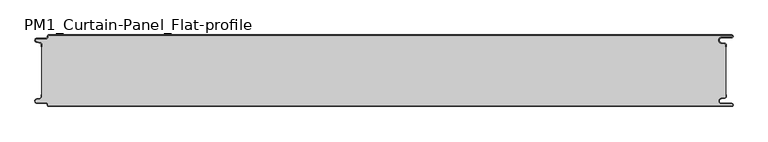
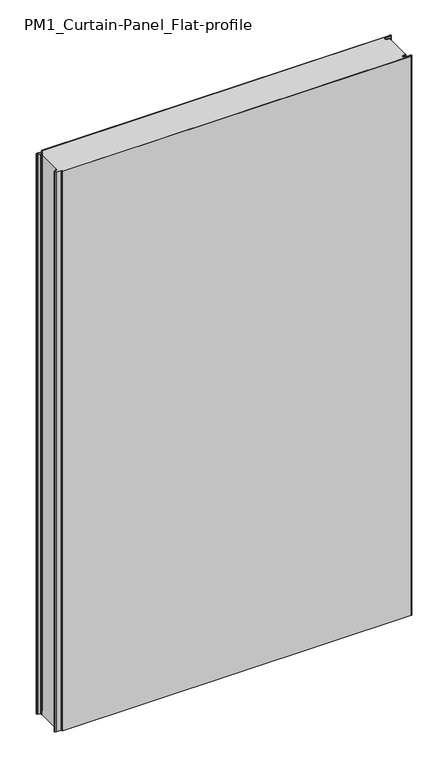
"""IFC4 building model written with IfcOpenShell, lengths in millimetres: plate geometry, PM1_Curtain-Panel_Flat-profile : ACH_PM1_Acoustic-Sectioning-Panel_120M."""

from ifc_helpers import new_model, si_unit, point, frame, frame_2d, origin, origin_with_axes, place, context, project, spatial, polyline, circle_curve, trimmed, segment, composite_curve, outline, extrude, source, transform, mapped, element, save
from ifc_brep_helpers import plane_surface, cylinder_surface, revolved_surface, advanced_brep


def pm1_curtain_panel_flat_profile_ca693aed(model_context):
    return source(origin(), model_context, "Body", "SolidModel", [
        advanced_brep(
        [(583.1, 0.0, 1945.7507136), (-562.4, 0.0, 1945.7507136), (-564.4, -2.0, 1945.7507136), (-564.4, -3.4, 1945.7507136), (-566.4, -5.4, 1945.7507136), (-581.9, -5.4, 1945.7507136), (-582.7098239, -12.5077322, 1945.7507136), (-576.5500979, -13.929817, 1945.7507136), (-575.0, -15.878557, 1945.7507136), (-575.0, -20.0, 1945.7507136), (-574.2, -20.0, 1945.7507136), (-574.2, -15.878557, 1945.7507136), (-576.370137, -13.1503208, 1945.7507136), (-582.529863, -11.728236, 1945.7507136), (-581.9, -6.2, 1945.7507136), (-566.4, -6.2, 1945.7507136), (-563.6, -3.4, 1945.7507136), (-563.6, -2.0, 1945.7507136), (-562.4, -0.8, 1945.7507136), (583.1, -0.8, 1945.7507136), (583.1, -4.2, 1945.7507136), (566.1, -4.2, 1945.7507136), (565.266489, -13.7270773, 1945.7507136), (571.7125666, -14.8636942, 1945.7507136), (573.2, -16.636348, 1945.7507136), (573.2, -20.0, 1945.7507136), (574.0, -20.0, 1945.7507136), (574.0, -16.636348, 1945.7507136), (571.8514851, -14.0758478, 1945.7507136), (565.4054075, -12.9392309, 1945.7507136), (566.1, -5.0, 1945.7507136), (583.1, -5.0, 1945.7507136), (585.6, -2.5, 1945.7507136), (-562.4, 0.0, 0.0), (583.1, 0.0, 0.0), (585.6, -2.5, 0.0), (583.1, -5.0, 0.0), (566.1, -5.0, 0.0), (565.4054075, -12.939231, 0.0), (571.8514851, -14.075848, 0.0), (574.0, -16.636348, 0.0), (574.0, -20.0, 0.0), (573.2, -20.0, 0.0), (573.2, -16.636348, 0.0), (571.7125666, -14.863694, 0.0), (565.266489, -13.7270771, 0.0), (566.1, -4.2, 0.0), (583.1, -4.2, 0.0), (583.1, -0.8, 0.0), (-562.4, -0.8, 0.0), (-563.6, -2.0, 0.0), (-563.6, -3.4, 0.0), (-566.4, -6.2, 0.0), (-581.9, -6.2, 0.0), (-582.529863, -11.7282362, 0.0), (-576.370137, -13.150321, 0.0), (-574.2, -15.878557, 0.0), (-574.2, -20.0, 0.0), (-575.0, -20.0, 0.0), (-575.0, -15.878557, 0.0), (-576.5500978, -13.9298169, 0.0), (-582.7098239, -12.507732, 0.0), (-581.9, -5.4, 0.0), (-566.4, -5.4, 0.0), (-564.4, -3.4, 0.0), (-564.4, -2.0, 0.0)],
        [
            (0, 1),
            (1, 2, circle_curve(frame((-562.4, -2.0, 1945.7507136), z_axis=(0.0, 0.0, 1.0), x_axis=(1.0, 0.0, 0.0)), 2.0)),
            (2, 3),
            (3, 4, circle_curve(frame((-566.4, -3.4, 1945.7507136), z_axis=(0.0, 0.0, -1.0), x_axis=(1.0, 0.0, 0.0)), 2.0)),
            (4, 5),
            (5, 6, circle_curve(frame((-581.9, -9.0, 1945.7507136), z_axis=(0.0, 0.0, 1.0), x_axis=(1.0, 0.0, 0.0)), 3.6)),
            (6, 7),
            (7, 8, circle_curve(frame((-577.0, -15.878557, 1945.7507136), z_axis=(0.0, 0.0, -1.0), x_axis=(1.0, 0.0, 0.0)), 2.0)),
            (8, 9),
            (9, 10),
            (10, 11),
            (11, 12, circle_curve(frame((-577.0, -15.878557, 1945.7507136), z_axis=(0.0, 0.0, 1.0), x_axis=(1.0, 0.0, 0.0)), 2.8)),
            (12, 13),
            (13, 14, circle_curve(frame((-581.9, -9.0, 1945.7507136), z_axis=(0.0, 0.0, -1.0), x_axis=(1.0, 0.0, 0.0)), 2.8)),
            (14, 15),
            (15, 16, circle_curve(frame((-566.4, -3.4, 1945.7507136), z_axis=(0.0, 0.0, 1.0), x_axis=(1.0, 0.0, 0.0)), 2.8)),
            (16, 17),
            (17, 18, circle_curve(frame((-562.4, -2.0, 1945.7507136), z_axis=(0.0, 0.0, -1.0), x_axis=(1.0, 0.0, 0.0)), 1.2)),
            (18, 19),
            (19, 20, circle_curve(frame((583.1, -2.5, 1945.7507136), z_axis=(0.0, 0.0, -1.0), x_axis=(1.0, 0.0, 0.0)), 1.7)),
            (20, 21),
            (21, 22, circle_curve(frame((566.1, -9.0, 1945.7507136), z_axis=(0.0, 0.0, 1.0), x_axis=(1.0, 0.0, 0.0)), 4.8)),
            (22, 23),
            (23, 24, circle_curve(frame((571.4, -16.636348, 1945.7507136), z_axis=(0.0, 0.0, -1.0), x_axis=(1.0, 0.0, 0.0)), 1.8)),
            (24, 25),
            (25, 26),
            (26, 27),
            (27, 28, circle_curve(frame((571.4, -16.636348, 1945.7507136), z_axis=(0.0, 0.0, 1.0), x_axis=(1.0, 0.0, 0.0)), 2.6)),
            (28, 29),
            (29, 30, circle_curve(frame((566.1, -9.0, 1945.7507136), z_axis=(0.0, 0.0, -1.0), x_axis=(1.0, 0.0, 0.0)), 4.0)),
            (30, 31),
            (31, 32, circle_curve(frame((583.1, -2.5, 1945.7507136), z_axis=(0.0, 0.0, 1.0), x_axis=(1.0, 0.0, 0.0)), 2.5)),
            (32, 0, circle_curve(frame((583.1, -2.5, 1945.7507136), z_axis=(0.0, 0.0, 1.0), x_axis=(1.0, 0.0, 0.0)), 2.5)),
            (33, 34),
            (34, 35, circle_curve(frame((583.1, -2.5, 0.0), z_axis=(0.0, 0.0, -1.0), x_axis=(1.0, 0.0, 0.0)), 2.5)),
            (35, 36, circle_curve(frame((583.1, -2.5, 0.0), z_axis=(0.0, 0.0, -1.0), x_axis=(1.0, 0.0, 0.0)), 2.5)),
            (36, 37),
            (37, 38, circle_curve(frame((566.1, -9.0, 0.0), z_axis=(0.0, 0.0, 1.0), x_axis=(1.0, 0.0, 0.0)), 4.0)),
            (38, 39),
            (39, 40, circle_curve(frame((571.4, -16.636348, 0.0), z_axis=(0.0, 0.0, -1.0), x_axis=(1.0, 0.0, 0.0)), 2.6)),
            (40, 41),
            (41, 42),
            (42, 43),
            (43, 44, circle_curve(frame((571.4, -16.636348, 0.0), z_axis=(0.0, 0.0, 1.0), x_axis=(1.0, 0.0, 0.0)), 1.8)),
            (44, 45),
            (45, 46, circle_curve(frame((566.1, -9.0, 0.0), z_axis=(0.0, 0.0, -1.0), x_axis=(1.0, 0.0, 0.0)), 4.8)),
            (46, 47),
            (47, 48, circle_curve(frame((583.1, -2.5, 0.0), z_axis=(0.0, 0.0, 1.0), x_axis=(1.0, 0.0, 0.0)), 1.7)),
            (48, 49),
            (49, 50, circle_curve(frame((-562.4, -2.0, 0.0), z_axis=(0.0, 0.0, 1.0), x_axis=(1.0, 0.0, 0.0)), 1.2)),
            (50, 51),
            (51, 52, circle_curve(frame((-566.4, -3.4, 0.0), z_axis=(0.0, 0.0, -1.0), x_axis=(1.0, 0.0, 0.0)), 2.8)),
            (52, 53),
            (53, 54, circle_curve(frame((-581.9, -9.0, 0.0), z_axis=(0.0, 0.0, 1.0), x_axis=(1.0, 0.0, 0.0)), 2.8)),
            (54, 55),
            (55, 56, circle_curve(frame((-577.0, -15.878557, 0.0), z_axis=(0.0, 0.0, -1.0), x_axis=(1.0, 0.0, 0.0)), 2.8)),
            (56, 57),
            (57, 58),
            (58, 59),
            (59, 60, circle_curve(frame((-577.0, -15.878557, 0.0), z_axis=(0.0, 0.0, 1.0), x_axis=(1.0, 0.0, 0.0)), 2.0)),
            (60, 61),
            (61, 62, circle_curve(frame((-581.9, -9.0, 0.0), z_axis=(0.0, 0.0, -1.0), x_axis=(1.0, 0.0, 0.0)), 3.6)),
            (62, 63),
            (63, 64, circle_curve(frame((-566.4, -3.4, 0.0), z_axis=(0.0, 0.0, 1.0), x_axis=(1.0, 0.0, 0.0)), 2.0)),
            (64, 65),
            (65, 33, circle_curve(frame((-562.4, -2.0, 0.0), z_axis=(0.0, 0.0, -1.0), x_axis=(1.0, 0.0, 0.0)), 2.0)),
            (1, 33),
            (65, 2),
            (64, 3),
            (63, 4),
            (62, 5),
            (61, 6),
            (60, 7),
            (59, 8),
            (58, 9),
            (57, 10),
            (56, 11),
            (55, 12),
            (54, 13),
            (53, 14),
            (52, 15),
            (51, 16),
            (50, 17),
            (49, 18),
            (48, 19),
            (47, 20),
            (46, 21),
            (45, 22),
            (44, 23),
            (43, 24),
            (42, 25),
            (41, 26),
            (40, 27),
            (39, 28),
            (38, 29),
            (37, 30),
            (36, 31),
            (34, 0),
        ],
        [
            plane_surface(frame((-575.0, 0.0, 1945.7507136), z_axis=(0.0, 0.0, 1.0), x_axis=(0.0, 1.0, 0.0))),
            plane_surface(frame((-575.0, 0.0, 0.0), z_axis=(0.0, 0.0, -1.0), x_axis=(0.0, 1.0, 0.0))),
            cylinder_surface(frame((-562.4, -2.0, 1945.7507136), z_axis=(0.0, 0.0, 1.0), x_axis=(1.0, 0.0, 0.0)), 2.0),
            plane_surface(frame((-564.4, -2.0, 1945.7507136), z_axis=(-1.0, 0.0, 0.0), x_axis=(0.0, 0.0, -1.0))),
            revolved_surface(polyline([(-564.4, -3.4, 0.0), (-564.4, -3.4, 1945.7507136)]), (-566.4, -3.4, 1945.7507136), (0.0, 0.0, -1.0)),
            plane_surface(frame((-566.4, -5.4, 1945.7507136), z_axis=(0.0, 1.0, 0.0), x_axis=(0.0, 0.0, -1.0))),
            cylinder_surface(frame((-581.9, -9.0, 1945.7507136), z_axis=(0.0, 0.0, 1.0), x_axis=(1.0, 0.0, 0.0)), 3.6),
            plane_surface(frame((-582.7098239, -12.507732, 1945.7507136), z_axis=(-0.2249510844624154, -0.9743700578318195, 0.0), x_axis=(0.0, 0.0, -1.0))),
            revolved_surface(polyline([(-575.0, -15.878557, 0.0), (-575.0, -15.878557, 1945.7507136)]), (-577.0, -15.878557, 1945.7507136), (0.0, 0.0, -1.0)),
            plane_surface(frame((-575.0, -15.878557, 1945.7507136), z_axis=(-1.0, 0.0, 0.0), x_axis=(0.0, 0.0, -1.0))),
            plane_surface(frame((-575.0, -20.0, 1945.7507136), z_axis=(0.0, -1.0, 0.0), x_axis=(0.0, 0.0, -1.0))),
            plane_surface(frame((-574.2, -20.0, 1945.7507136), z_axis=(1.0, 0.0, 0.0), x_axis=(0.0, 0.0, -1.0))),
            cylinder_surface(frame((-577.0, -15.878557, 1945.7507136), z_axis=(0.0, 0.0, 1.0), x_axis=(1.0, 0.0, 0.0)), 2.8),
            plane_surface(frame((-576.370137, -13.150321, 1945.7507136), z_axis=(0.22495108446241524, 0.9743700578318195, 0.0), x_axis=(0.0, 0.0, -1.0))),
            revolved_surface(polyline([(-579.1, -9.0, 0.0), (-579.1, -9.0, 1945.7507136)]), (-581.9, -9.0, 1945.7507136), (0.0, 0.0, -1.0)),
            plane_surface(frame((-581.9, -6.2, 1945.7507136), z_axis=(0.0, -1.0, 0.0), x_axis=(0.0, 0.0, -1.0))),
            cylinder_surface(frame((-566.4, -3.4, 1945.7507136), z_axis=(0.0, 0.0, 1.0), x_axis=(1.0, 0.0, 0.0)), 2.8),
            plane_surface(frame((-563.6, -3.4, 1945.7507136), z_axis=(1.0, 0.0, 0.0), x_axis=(0.0, 0.0, -1.0))),
            revolved_surface(polyline([(-561.1999999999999, -2.0, 0.0), (-561.1999999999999, -2.0, 1945.7507136)]), (-562.4, -2.0, 1945.7507136), (0.0, 0.0, -1.0)),
            plane_surface(frame((560.890897, -0.8, 1945.7507136), z_axis=(0.0, -1.0, 0.0), x_axis=(0.0, 0.0, -1.0))),
            revolved_surface(polyline([(584.8000000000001, -2.5, 0.0), (584.8000000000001, -2.5, 1945.7507136)]), (583.1, -2.5, 1945.7507136), (0.0, 0.0, -1.0)),
            plane_surface(frame((583.1, -4.2, 1945.7507136), z_axis=(0.0, 1.0, 0.0), x_axis=(0.0, 0.0, -1.0))),
            cylinder_surface(frame((566.1, -9.0, 1945.7507136), z_axis=(0.0, 0.0, 1.0), x_axis=(1.0, 0.0, 0.0)), 4.8),
            plane_surface(frame((565.266489, -13.7270771, 1945.7507136), z_axis=(-0.1736481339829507, -0.9848077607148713, 0.0), x_axis=(0.0, 0.0, -1.0))),
            revolved_surface(polyline([(573.1999999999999, -16.636348, 0.0), (573.1999999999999, -16.636348, 1945.7507136)]), (571.4, -16.636348, 1945.7507136), (0.0, 0.0, -1.0)),
            plane_surface(frame((573.2, -16.636348, 1945.7507136), z_axis=(-1.0, 0.0, 0.0), x_axis=(0.0, 0.0, -1.0))),
            plane_surface(frame((573.2, -20.0, 1945.7507136), z_axis=(0.0, -1.0, 0.0), x_axis=(0.0, 0.0, -1.0))),
            plane_surface(frame((574.0, -20.0, 1945.7507136), z_axis=(1.0, 0.0, 0.0), x_axis=(0.0, 0.0, -1.0))),
            cylinder_surface(frame((571.4, -16.636348, 1945.7507136), z_axis=(0.0, 0.0, 1.0), x_axis=(1.0, 0.0, 0.0)), 2.6),
            plane_surface(frame((571.8514851, -14.075848, 1945.7507136), z_axis=(0.17364813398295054, 0.9848077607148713, 0.0), x_axis=(0.0, 0.0, -1.0))),
            revolved_surface(polyline([(570.1, -9.0, 0.0), (570.1, -9.0, 1945.7507136)]), (566.1, -9.0, 1945.7507136), (0.0, 0.0, -1.0)),
            plane_surface(frame((566.1, -5.0, 1945.7507136), z_axis=(0.0, -1.0, 0.0), x_axis=(0.0, 0.0, -1.0))),
            cylinder_surface(frame((583.1, -2.5, 1945.7507136), z_axis=(0.0, 0.0, 1.0), x_axis=(1.0, 0.0, 0.0)), 2.5),
            plane_surface(frame((510.5961529, 0.0, 1945.7507136), z_axis=(0.0, 1.0, 0.0), x_axis=(0.0, 0.0, -1.0))),
        ],
        [
            (0, [[1, 2, 3, 4, 5, 6, 7, 8, 9, 10, 11, 12, 13, 14, 15, 16, 17, 18, 19, 20, 21, 22, 23, 24, 25, 26, 27, 28, 29, 30, 31, 32, 33]]),
            (1, [[34, 35, 36, 37, 38, 39, 40, 41, 42, 43, 44, 45, 46, 47, 48, 49, 50, 51, 52, 53, 54, 55, 56, 57, 58, 59, 60, 61, 62, 63, 64, 65, 66]]),
            (2, [[-2, 67, -66, 68]]),
            (3, [[-3, -68, -65, 69]]),
            (4, [[-4, -69, -64, 70]]),
            (5, [[-5, -70, -63, 71]]),
            (6, [[-6, -71, -62, 72]]),
            (7, [[-7, -72, -61, 73]]),
            (8, [[-8, -73, -60, 74]]),
            (9, [[-9, -74, -59, 75]]),
            (10, [[-10, -75, -58, 76]]),
            (11, [[-11, -76, -57, 77]]),
            (12, [[-12, -77, -56, 78]]),
            (13, [[-13, -78, -55, 79]]),
            (14, [[-14, -79, -54, 80]]),
            (15, [[-15, -80, -53, 81]]),
            (16, [[-16, -81, -52, 82]]),
            (17, [[-17, -82, -51, 83]]),
            (18, [[-18, -83, -50, 84]]),
            (19, [[-19, -84, -49, 85]]),
            (20, [[-20, -85, -48, 86]]),
            (21, [[-21, -86, -47, 87]]),
            (22, [[-22, -87, -46, 88]]),
            (23, [[-23, -88, -45, 89]]),
            (24, [[-24, -89, -44, 90]]),
            (25, [[-25, -90, -43, 91]]),
            (26, [[-26, -91, -42, 92]]),
            (27, [[-27, -92, -41, 93]]),
            (28, [[-28, -93, -40, 94]]),
            (29, [[-29, -94, -39, 95]]),
            (30, [[-30, -95, -38, 96]]),
            (31, [[-31, -96, -37, 97]]),
            (32, [[-97, -36, -35, 98, -33, -32]]),
            (33, [[-1, -98, -34, -67]]),
        ],
    ),
        extrude(outline(composite_curve([segment(polyline([(-574.2, -104.1214426), (-574.2, -15.8785573)]), True, "CONTINUOUS"), segment(trimmed(circle_curve(frame_2d((-577.0, -15.8785573)), 2.8), [point((-574.2, -15.8785573))], [point((-576.370137, -13.1503212))], True, "CARTESIAN"), True, "CONTINUOUS"), segment(polyline([(-576.370137, -13.1503212), (-582.5298631, -11.7282362)]), True, "CONTINUOUS"), segment(trimmed(circle_curve(frame_2d((-581.9, -9.0)), 2.8), [point((-582.5298631, -11.7282362))], [point((-581.9, -6.2))], False, "CARTESIAN"), True, "CONTINUOUS"), segment(polyline([(-581.9, -6.2), (-566.4000001, -6.2)]), True, "CONTINUOUS"), segment(trimmed(circle_curve(frame_2d((-566.4000001, -3.4)), 2.8), [point((-566.4000001, -6.2))], [point((-563.6000001, -3.4))], True, "CARTESIAN"), True, "CONTINUOUS"), segment(polyline([(-563.6000001, -3.4), (-563.6000001, -2.0)]), True, "CONTINUOUS"), segment(trimmed(circle_curve(frame_2d((-562.4000001, -2.0)), 1.2), [point((-563.6000001, -2.0))], [point((-562.4000001, -0.8))], False, "CARTESIAN"), True, "CONTINUOUS"), segment(polyline([(-562.4000001, -0.8), (583.1, -0.8)]), True, "CONTINUOUS"), segment(trimmed(circle_curve(frame_2d((583.1, -2.5)), 1.7), [point((583.1, -0.8))], [point((583.1, -4.2))], False, "CARTESIAN"), True, "CONTINUOUS"), segment(polyline([(583.1, -4.2), (566.1, -4.2)]), True, "CONTINUOUS"), segment(trimmed(circle_curve(frame_2d((566.1, -9.0)), 4.8), [point((566.1, -4.2))], [point((565.2664883, -13.7270771))], True, "CARTESIAN"), True, "CONTINUOUS"), segment(polyline([(565.2664883, -13.7270771), (571.7125668, -14.8636953)]), True, "CONTINUOUS"), segment(trimmed(circle_curve(frame_2d((571.4, -16.6363492)), 1.8), [point((571.7125668, -14.8636953))], [point((573.2, -16.6363492))], False, "CARTESIAN"), True, "CONTINUOUS"), segment(polyline([(573.2, -16.6363492), (573.2, -103.3636508)]), True, "CONTINUOUS"), segment(trimmed(circle_curve(frame_2d((571.4, -103.3636508)), 1.8), [point((573.2, -103.3636508))], [point((571.7125668, -105.1363047))], False, "CARTESIAN"), True, "CONTINUOUS"), segment(polyline([(571.7125668, -105.1363047), (565.2664883, -106.2729229)]), True, "CONTINUOUS"), segment(trimmed(circle_curve(frame_2d((566.1, -111.0)), 4.8), [point((565.2664883, -106.2729229))], [point((566.1, -115.8))], True, "CARTESIAN"), True, "CONTINUOUS"), segment(polyline([(566.1, -115.8), (583.1, -115.8)]), True, "CONTINUOUS"), segment(trimmed(circle_curve(frame_2d((583.1, -117.5)), 1.7), [point((583.1, -115.8))], [point((583.1, -119.2))], False, "CARTESIAN"), True, "CONTINUOUS"), segment(polyline([(583.1, -119.2), (-562.4000001, -119.2)]), True, "CONTINUOUS"), segment(trimmed(circle_curve(frame_2d((-562.4000001, -118.0)), 1.2), [point((-562.4000001, -119.2))], [point((-563.6000001, -118.0))], False, "CARTESIAN"), True, "CONTINUOUS"), segment(polyline([(-563.6000001, -118.0), (-563.6000001, -116.6)]), True, "CONTINUOUS"), segment(trimmed(circle_curve(frame_2d((-566.4000001, -116.6)), 2.8), [point((-563.6000001, -116.6))], [point((-566.4000001, -113.8))], True, "CARTESIAN"), True, "CONTINUOUS"), segment(polyline([(-566.4000001, -113.8), (-581.9, -113.8)]), True, "CONTINUOUS"), segment(trimmed(circle_curve(frame_2d((-581.9, -111.0)), 2.8), [point((-581.9, -113.8))], [point((-582.5298631, -108.2717638))], False, "CARTESIAN"), True, "CONTINUOUS"), segment(polyline([(-582.5298631, -108.2717638), (-576.370137, -106.8496788)]), True, "CONTINUOUS"), segment(trimmed(circle_curve(frame_2d((-577.0, -104.1214426)), 2.8), [point((-576.370137, -106.8496788))], [point((-574.2, -104.1214426))], True, "CARTESIAN"), True, "CONTINUOUS")], self_intersect=False)), origin_with_axes(), (0.0, 0.0, 1.0), 1945.7507136),
        advanced_brep(
        [(-562.4, -120.0, 1945.7507136), (583.1, -120.0, 1945.7507136), (585.6, -117.5, 1945.7507136), (583.1, -115.0, 1945.7507136), (566.1, -115.0, 1945.7507136), (565.4054075, -107.060769, 1945.7507136), (571.8514851, -105.924152, 1945.7507136), (574.0, -103.363652, 1945.7507136), (574.0, -100.0, 1945.7507136), (573.2, -100.0, 1945.7507136), (573.2, -103.363652, 1945.7507136), (571.7125666, -105.136306, 1945.7507136), (565.266489, -106.2729229, 1945.7507136), (566.1, -115.8, 1945.7507136), (583.1, -115.8, 1945.7507136), (583.1, -119.2, 1945.7507136), (-562.4, -119.2, 1945.7507136), (-563.6, -118.0, 1945.7507136), (-563.6, -116.6, 1945.7507136), (-566.4, -113.8, 1945.7507136), (-581.9, -113.8, 1945.7507136), (-582.529863, -108.2717638, 1945.7507136), (-576.370137, -106.849679, 1945.7507136), (-574.2, -104.121443, 1945.7507136), (-574.2, -100.0, 1945.7507136), (-575.0, -100.0, 1945.7507136), (-575.0, -104.121443, 1945.7507136), (-576.5500978, -106.0701831, 1945.7507136), (-582.7098239, -107.492268, 1945.7507136), (-581.9, -114.6, 1945.7507136), (-566.4, -114.6, 1945.7507136), (-564.4, -116.6, 1945.7507136), (-564.4, -118.0, 1945.7507136), (583.1, -120.0, 0.0), (-562.4, -120.0, 0.0), (-564.4, -118.0, 0.0), (-564.4, -116.6, 0.0), (-566.4, -114.6, 0.0), (-581.9, -114.6, 0.0), (-582.7098239, -107.4922678, 0.0), (-576.5500979, -106.070183, 0.0), (-575.0, -104.121443, 0.0), (-575.0, -100.0, 0.0), (-574.2, -100.0, 0.0), (-574.2, -104.121443, 0.0), (-576.370137, -106.8496792, 0.0), (-582.529863, -108.271764, 0.0), (-581.9, -113.8, 0.0), (-566.4, -113.8, 0.0), (-563.6, -116.6, 0.0), (-563.6, -118.0, 0.0), (-562.4, -119.2, 0.0), (583.1, -119.2, 0.0), (583.1, -115.8, 0.0), (566.1, -115.8, 0.0), (565.266489, -106.2729227, 0.0), (571.7125666, -105.1363058, 0.0), (573.2, -103.363652, 0.0), (573.2, -100.0, 0.0), (574.0, -100.0, 0.0), (574.0, -103.363652, 0.0), (571.8514851, -105.9241522, 0.0), (565.4054075, -107.0607691, 0.0), (566.1, -115.0, 0.0), (583.1, -115.0, 0.0), (585.6, -117.5, 0.0)],
        [
            (0, 1),
            (1, 2, circle_curve(frame((583.1, -117.5, 1945.7507136), z_axis=(0.0, 0.0, 1.0), x_axis=(1.0, 0.0, 0.0)), 2.5)),
            (2, 3, circle_curve(frame((583.1, -117.5, 1945.7507136), z_axis=(0.0, 0.0, 1.0), x_axis=(1.0, 0.0, 0.0)), 2.5)),
            (3, 4),
            (4, 5, circle_curve(frame((566.1, -111.0, 1945.7507136), z_axis=(0.0, 0.0, -1.0), x_axis=(1.0, 0.0, 0.0)), 4.0)),
            (5, 6),
            (6, 7, circle_curve(frame((571.4, -103.363652, 1945.7507136), z_axis=(0.0, 0.0, 1.0), x_axis=(1.0, 0.0, 0.0)), 2.6)),
            (7, 8),
            (8, 9),
            (9, 10),
            (10, 11, circle_curve(frame((571.4, -103.363652, 1945.7507136), z_axis=(0.0, 0.0, -1.0), x_axis=(1.0, 0.0, 0.0)), 1.8)),
            (11, 12),
            (12, 13, circle_curve(frame((566.1, -111.0, 1945.7507136), z_axis=(0.0, 0.0, 1.0), x_axis=(1.0, 0.0, 0.0)), 4.8)),
            (13, 14),
            (14, 15, circle_curve(frame((583.1, -117.5, 1945.7507136), z_axis=(0.0, 0.0, -1.0), x_axis=(1.0, 0.0, 0.0)), 1.7)),
            (15, 16),
            (16, 17, circle_curve(frame((-562.4, -118.0, 1945.7507136), z_axis=(0.0, 0.0, -1.0), x_axis=(1.0, 0.0, 0.0)), 1.2)),
            (17, 18),
            (18, 19, circle_curve(frame((-566.4, -116.6, 1945.7507136), z_axis=(0.0, 0.0, 1.0), x_axis=(1.0, 0.0, 0.0)), 2.8)),
            (19, 20),
            (20, 21, circle_curve(frame((-581.9, -111.0, 1945.7507136), z_axis=(0.0, 0.0, -1.0), x_axis=(1.0, 0.0, 0.0)), 2.8)),
            (21, 22),
            (22, 23, circle_curve(frame((-577.0, -104.121443, 1945.7507136), z_axis=(0.0, 0.0, 1.0), x_axis=(1.0, 0.0, 0.0)), 2.8)),
            (23, 24),
            (24, 25),
            (25, 26),
            (26, 27, circle_curve(frame((-577.0, -104.121443, 1945.7507136), z_axis=(0.0, 0.0, -1.0), x_axis=(1.0, 0.0, 0.0)), 2.0)),
            (27, 28),
            (28, 29, circle_curve(frame((-581.9, -111.0, 1945.7507136), z_axis=(0.0, 0.0, 1.0), x_axis=(1.0, 0.0, 0.0)), 3.6)),
            (29, 30),
            (30, 31, circle_curve(frame((-566.4, -116.6, 1945.7507136), z_axis=(0.0, 0.0, -1.0), x_axis=(1.0, 0.0, 0.0)), 2.0)),
            (31, 32),
            (32, 0, circle_curve(frame((-562.4, -118.0, 1945.7507136), z_axis=(0.0, 0.0, 1.0), x_axis=(1.0, 0.0, 0.0)), 2.0)),
            (33, 34),
            (34, 35, circle_curve(frame((-562.4, -118.0, 0.0), z_axis=(0.0, 0.0, -1.0), x_axis=(1.0, 0.0, 0.0)), 2.0)),
            (35, 36),
            (36, 37, circle_curve(frame((-566.4, -116.6, 0.0), z_axis=(0.0, 0.0, 1.0), x_axis=(1.0, 0.0, 0.0)), 2.0)),
            (37, 38),
            (38, 39, circle_curve(frame((-581.9, -111.0, 0.0), z_axis=(0.0, 0.0, -1.0), x_axis=(1.0, 0.0, 0.0)), 3.6)),
            (39, 40),
            (40, 41, circle_curve(frame((-577.0, -104.121443, 0.0), z_axis=(0.0, 0.0, 1.0), x_axis=(1.0, 0.0, 0.0)), 2.0)),
            (41, 42),
            (42, 43),
            (43, 44),
            (44, 45, circle_curve(frame((-577.0, -104.121443, 0.0), z_axis=(0.0, 0.0, -1.0), x_axis=(1.0, 0.0, 0.0)), 2.8)),
            (45, 46),
            (46, 47, circle_curve(frame((-581.9, -111.0, 0.0), z_axis=(0.0, 0.0, 1.0), x_axis=(1.0, 0.0, 0.0)), 2.8)),
            (47, 48),
            (48, 49, circle_curve(frame((-566.4, -116.6, 0.0), z_axis=(0.0, 0.0, -1.0), x_axis=(1.0, 0.0, 0.0)), 2.8)),
            (49, 50),
            (50, 51, circle_curve(frame((-562.4, -118.0, 0.0), z_axis=(0.0, 0.0, 1.0), x_axis=(1.0, 0.0, 0.0)), 1.2)),
            (51, 52),
            (52, 53, circle_curve(frame((583.1, -117.5, 0.0), z_axis=(0.0, 0.0, 1.0), x_axis=(1.0, 0.0, 0.0)), 1.7)),
            (53, 54),
            (54, 55, circle_curve(frame((566.1, -111.0, 0.0), z_axis=(0.0, 0.0, -1.0), x_axis=(1.0, 0.0, 0.0)), 4.8)),
            (55, 56),
            (56, 57, circle_curve(frame((571.4, -103.363652, 0.0), z_axis=(0.0, 0.0, 1.0), x_axis=(1.0, 0.0, 0.0)), 1.8)),
            (57, 58),
            (58, 59),
            (59, 60),
            (60, 61, circle_curve(frame((571.4, -103.363652, 0.0), z_axis=(0.0, 0.0, -1.0), x_axis=(1.0, 0.0, 0.0)), 2.6)),
            (61, 62),
            (62, 63, circle_curve(frame((566.1, -111.0, 0.0), z_axis=(0.0, 0.0, 1.0), x_axis=(1.0, 0.0, 0.0)), 4.0)),
            (63, 64),
            (64, 65, circle_curve(frame((583.1, -117.5, 0.0), z_axis=(0.0, 0.0, -1.0), x_axis=(1.0, 0.0, 0.0)), 2.5)),
            (65, 33, circle_curve(frame((583.1, -117.5, 0.0), z_axis=(0.0, 0.0, -1.0), x_axis=(1.0, 0.0, 0.0)), 2.5)),
            (0, 34),
            (33, 1),
            (64, 3),
            (63, 4),
            (62, 5),
            (61, 6),
            (60, 7),
            (59, 8),
            (58, 9),
            (57, 10),
            (56, 11),
            (55, 12),
            (54, 13),
            (53, 14),
            (52, 15),
            (51, 16),
            (50, 17),
            (49, 18),
            (48, 19),
            (47, 20),
            (46, 21),
            (45, 22),
            (44, 23),
            (43, 24),
            (42, 25),
            (41, 26),
            (40, 27),
            (39, 28),
            (38, 29),
            (37, 30),
            (36, 31),
            (35, 32),
        ],
        [
            plane_surface(frame((-575.0, -120.0, 1945.7507136), z_axis=(0.0, 0.0, 1.0), x_axis=(0.0, 1.0, 0.0))),
            plane_surface(frame((-575.0, -120.0, 0.0), z_axis=(0.0, 0.0, -1.0), x_axis=(0.0, 1.0, 0.0))),
            plane_surface(frame((560.890897, -120.0, 1945.7507136), z_axis=(0.0, -1.0, 0.0), x_axis=(0.0, 0.0, -1.0))),
            cylinder_surface(frame((583.1, -117.5, 1945.7507136), z_axis=(0.0, 0.0, 1.0), x_axis=(1.0, 0.0, 0.0)), 2.5),
            plane_surface(frame((583.1, -115.0, 1945.7507136), z_axis=(0.0, 1.0, 0.0), x_axis=(0.0, 0.0, -1.0))),
            revolved_surface(polyline([(570.1, -111.0, 0.0), (570.1, -111.0, 1945.7507136)]), (566.1, -111.0, 1945.7507136), (0.0, 0.0, -1.0)),
            plane_surface(frame((565.4054075, -107.0607691, 1945.7507136), z_axis=(0.17364813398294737, -0.9848077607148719, 0.0), x_axis=(0.0, 0.0, -1.0))),
            cylinder_surface(frame((571.4, -103.363652, 1945.7507136), z_axis=(0.0, 0.0, 1.0), x_axis=(1.0, 0.0, 0.0)), 2.6),
            plane_surface(frame((574.0, -103.363652, 1945.7507136), z_axis=(1.0, 0.0, 0.0), x_axis=(0.0, 0.0, -1.0))),
            plane_surface(frame((574.0, -100.0, 1945.7507136), z_axis=(0.0, 1.0, 0.0), x_axis=(0.0, 0.0, -1.0))),
            plane_surface(frame((573.2, -100.0, 1945.7507136), z_axis=(-1.0, 0.0, 0.0), x_axis=(0.0, 0.0, -1.0))),
            revolved_surface(polyline([(573.1999999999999, -103.363652, 0.0), (573.1999999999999, -103.363652, 1945.7507136)]), (571.4, -103.363652, 1945.7507136), (0.0, 0.0, -1.0)),
            plane_surface(frame((571.7125666, -105.1363058, 1945.7507136), z_axis=(-0.17364813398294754, 0.9848077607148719, 0.0), x_axis=(0.0, 0.0, -1.0))),
            cylinder_surface(frame((566.1, -111.0, 1945.7507136), z_axis=(0.0, 0.0, 1.0), x_axis=(1.0, 0.0, 0.0)), 4.8),
            plane_surface(frame((566.1, -115.8, 1945.7507136), z_axis=(0.0, -1.0, 0.0), x_axis=(0.0, 0.0, -1.0))),
            revolved_surface(polyline([(584.8000000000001, -117.5, 0.0), (584.8000000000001, -117.5, 1945.7507136)]), (583.1, -117.5, 1945.7507136), (0.0, 0.0, -1.0)),
            plane_surface(frame((510.8105122, -119.2, 1945.7507136), z_axis=(0.0, 1.0, 0.0), x_axis=(0.0, 0.0, -1.0))),
            revolved_surface(polyline([(-561.1999999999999, -118.0, 0.0), (-561.1999999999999, -118.0, 1945.7507136)]), (-562.4, -118.0, 1945.7507136), (0.0, 0.0, -1.0)),
            plane_surface(frame((-563.6, -118.0, 1945.7507136), z_axis=(1.0, 0.0, 0.0), x_axis=(0.0, 0.0, -1.0))),
            cylinder_surface(frame((-566.4, -116.6, 1945.7507136), z_axis=(0.0, 0.0, 1.0), x_axis=(1.0, 0.0, 0.0)), 2.8),
            plane_surface(frame((-566.4, -113.8, 1945.7507136), z_axis=(0.0, 1.0, 0.0), x_axis=(0.0, 0.0, -1.0))),
            revolved_surface(polyline([(-579.1, -111.0, 0.0), (-579.1, -111.0, 1945.7507136)]), (-581.9, -111.0, 1945.7507136), (0.0, 0.0, -1.0)),
            plane_surface(frame((-582.529863, -108.271764, 1945.7507136), z_axis=(0.2249510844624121, -0.9743700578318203, 0.0), x_axis=(0.0, 0.0, -1.0))),
            cylinder_surface(frame((-577.0, -104.121443, 1945.7507136), z_axis=(0.0, 0.0, 1.0), x_axis=(1.0, 0.0, 0.0)), 2.8),
            plane_surface(frame((-574.2, -104.121443, 1945.7507136), z_axis=(1.0, 0.0, 0.0), x_axis=(0.0, 0.0, -1.0))),
            plane_surface(frame((-574.2, -100.0, 1945.7507136), z_axis=(0.0, 1.0, 0.0), x_axis=(0.0, 0.0, -1.0))),
            plane_surface(frame((-575.0, -100.0, 1945.7507136), z_axis=(-1.0, 0.0, 0.0), x_axis=(0.0, 0.0, -1.0))),
            revolved_surface(polyline([(-575.0, -104.121443, 0.0), (-575.0, -104.121443, 1945.7507136)]), (-577.0, -104.121443, 1945.7507136), (0.0, 0.0, -1.0)),
            plane_surface(frame((-576.5500979, -106.070183, 1945.7507136), z_axis=(-0.22495108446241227, 0.9743700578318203, 0.0), x_axis=(0.0, 0.0, -1.0))),
            cylinder_surface(frame((-581.9, -111.0, 1945.7507136), z_axis=(0.0, 0.0, 1.0), x_axis=(1.0, 0.0, 0.0)), 3.6),
            plane_surface(frame((-581.9, -114.6, 1945.7507136), z_axis=(0.0, -1.0, 0.0), x_axis=(0.0, 0.0, -1.0))),
            revolved_surface(polyline([(-564.4, -116.6, 0.0), (-564.4, -116.6, 1945.7507136)]), (-566.4, -116.6, 1945.7507136), (0.0, 0.0, -1.0)),
            plane_surface(frame((-564.4, -116.6, 1945.7507136), z_axis=(-1.0, 0.0, 0.0), x_axis=(0.0, 0.0, -1.0))),
            cylinder_surface(frame((-562.4, -118.0, 1945.7507136), z_axis=(0.0, 0.0, 1.0), x_axis=(1.0, 0.0, 0.0)), 2.0),
        ],
        [
            (0, [[1, 2, 3, 4, 5, 6, 7, 8, 9, 10, 11, 12, 13, 14, 15, 16, 17, 18, 19, 20, 21, 22, 23, 24, 25, 26, 27, 28, 29, 30, 31, 32, 33]]),
            (1, [[34, 35, 36, 37, 38, 39, 40, 41, 42, 43, 44, 45, 46, 47, 48, 49, 50, 51, 52, 53, 54, 55, 56, 57, 58, 59, 60, 61, 62, 63, 64, 65, 66]]),
            (2, [[-1, 67, -34, 68]]),
            (3, [[-68, -66, -65, 69, -3, -2]]),
            (4, [[-4, -69, -64, 70]]),
            (5, [[-5, -70, -63, 71]]),
            (6, [[-6, -71, -62, 72]]),
            (7, [[-7, -72, -61, 73]]),
            (8, [[-8, -73, -60, 74]]),
            (9, [[-9, -74, -59, 75]]),
            (10, [[-10, -75, -58, 76]]),
            (11, [[-11, -76, -57, 77]]),
            (12, [[-12, -77, -56, 78]]),
            (13, [[-13, -78, -55, 79]]),
            (14, [[-14, -79, -54, 80]]),
            (15, [[-15, -80, -53, 81]]),
            (16, [[-16, -81, -52, 82]]),
            (17, [[-17, -82, -51, 83]]),
            (18, [[-18, -83, -50, 84]]),
            (19, [[-19, -84, -49, 85]]),
            (20, [[-20, -85, -48, 86]]),
            (21, [[-21, -86, -47, 87]]),
            (22, [[-22, -87, -46, 88]]),
            (23, [[-23, -88, -45, 89]]),
            (24, [[-24, -89, -44, 90]]),
            (25, [[-25, -90, -43, 91]]),
            (26, [[-26, -91, -42, 92]]),
            (27, [[-27, -92, -41, 93]]),
            (28, [[-28, -93, -40, 94]]),
            (29, [[-29, -94, -39, 95]]),
            (30, [[-30, -95, -38, 96]]),
            (31, [[-31, -96, -37, 97]]),
            (32, [[-32, -97, -36, 98]]),
            (33, [[-33, -98, -35, -67]]),
        ],
    ),
    ])


if __name__ == "__main__":
    model = new_model("IFC4")
    model_context = context("Model", 3, world=origin())
    ifc_project = project(units=[si_unit("LENGTHUNIT", "METRE", prefix="MILLI")], contexts=[model_context])
    site = spatial("IfcSite", under=ifc_project)
    building = spatial("IfcBuilding", under=site)
    placement = place(None, origin())
    pm1_curtain_panel_flat_profile_shape = pm1_curtain_panel_flat_profile_ca693aed(model_context)
    element("IfcPlate", 1, ObjectType="PM1_Curtain-Panel_Flat-profile : ACH_PM1_Acoustic-Sectioning-Panel_120M", at=placement, inside=building, context=model_context, shape_type="MappedRepresentation", body=[
        mapped(pm1_curtain_panel_flat_profile_shape, transform((0.0, 0.0, 0.0), x_axis=(1.0, 0.0, 0.0), y_axis=(0.0, 1.0, 0.0), z_axis=(0.0, 0.0, 1.0))),
    ])
    save(model, "model.ifc")
